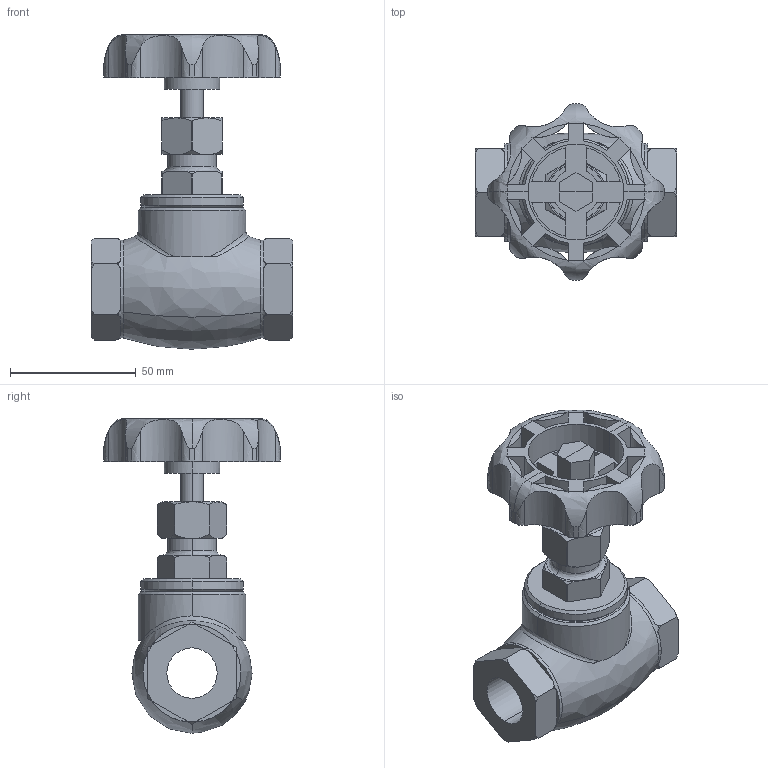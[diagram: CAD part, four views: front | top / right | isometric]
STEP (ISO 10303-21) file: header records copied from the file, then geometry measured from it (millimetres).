
FILE_DESCRIPTION( (''), '2;1');
FILE_NAME ('PC1027.9568.3D GLV-10 20A_15130.stp','2025-07-28T11:28:40',(''),(''),'spGate 19.8.4 (****-****-****-****)','','');
FILE_SCHEMA (('AUTOMOTIVE_DESIGN'));
Length unit declared in the file: millimetre
Bounding box: 80 x 70 x 124.89 mm (x, y, z)
Volume: 159138.5 mm3; surface area: 39946 mm2
Topology: 1 solids, 1 shells, 240 faces, 698 edges, 455 vertices
Faces by surface type: bspline 98, plane 82, cylinder 60
Entity records: 15916 total; most frequent: CARTESIAN_POINT 5140, ORIENTED_EDGE 1392, COLOUR_RGB 937, PRESENTATION_STYLE_ASSIGNMENT 937, STYLED_ITEM 937, DIRECTION 918, EDGE_CURVE 696, DRAUGHTING_PRE_DEFINED_CURVE_FONT 696
